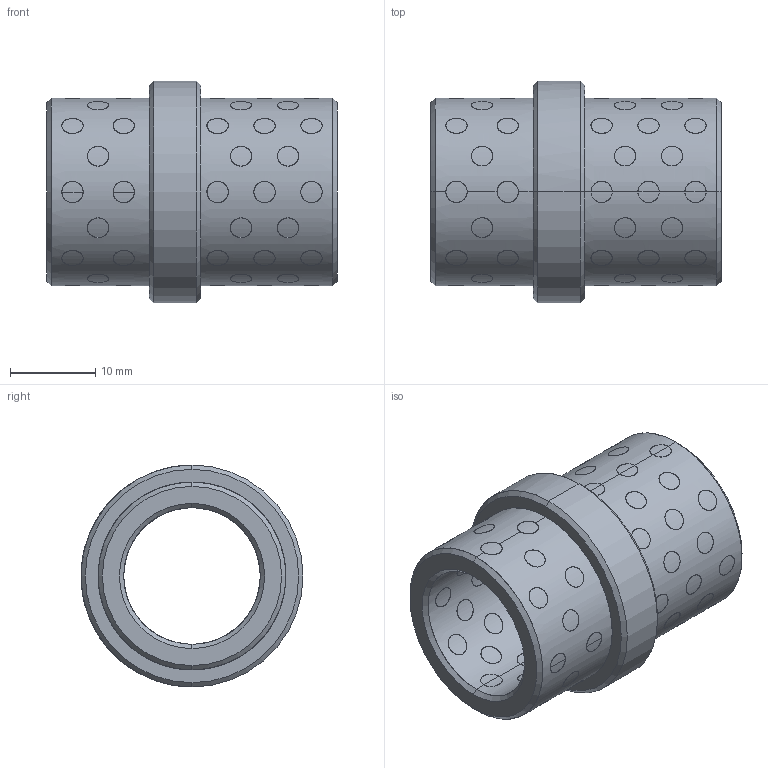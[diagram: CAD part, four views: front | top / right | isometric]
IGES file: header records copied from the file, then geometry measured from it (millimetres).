
Start section: START RECORD GO HERE.
Global section: file name: G4021622.igs; native system: DASSAULT SYSTEMES CATIA V5 R20 - www.3ds.com; preprocessor: CATIA Version 5 Release 20 ; author: r.borello; organization: CFTORINO; date: 20190624.144130; units: millimetre
Bounding box: 34 x 26 x 26 mm (x, y, z)
Surface area: 7688.3 mm2 (no closed solid volume)
Topology: 0 solids, 0 shells, 428 faces, 1872 edges, 1872 vertices
Faces by surface type: revolution 424, plane 4
